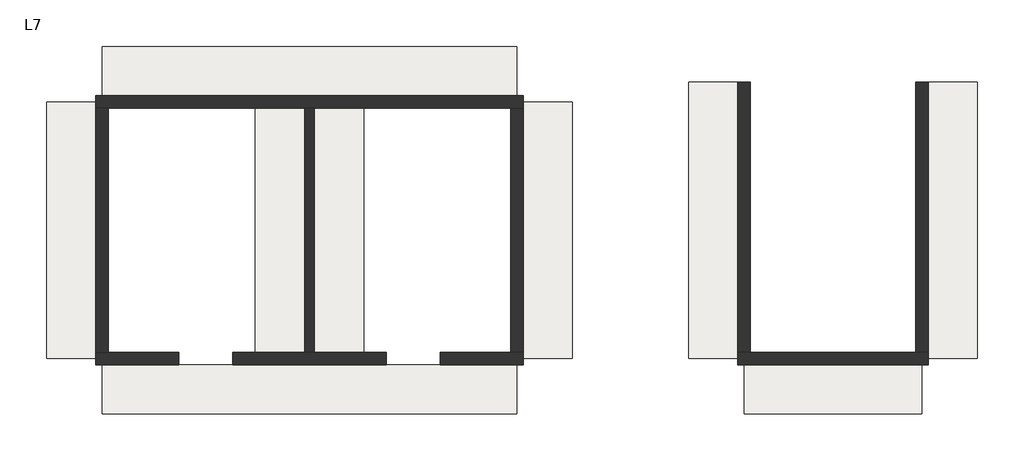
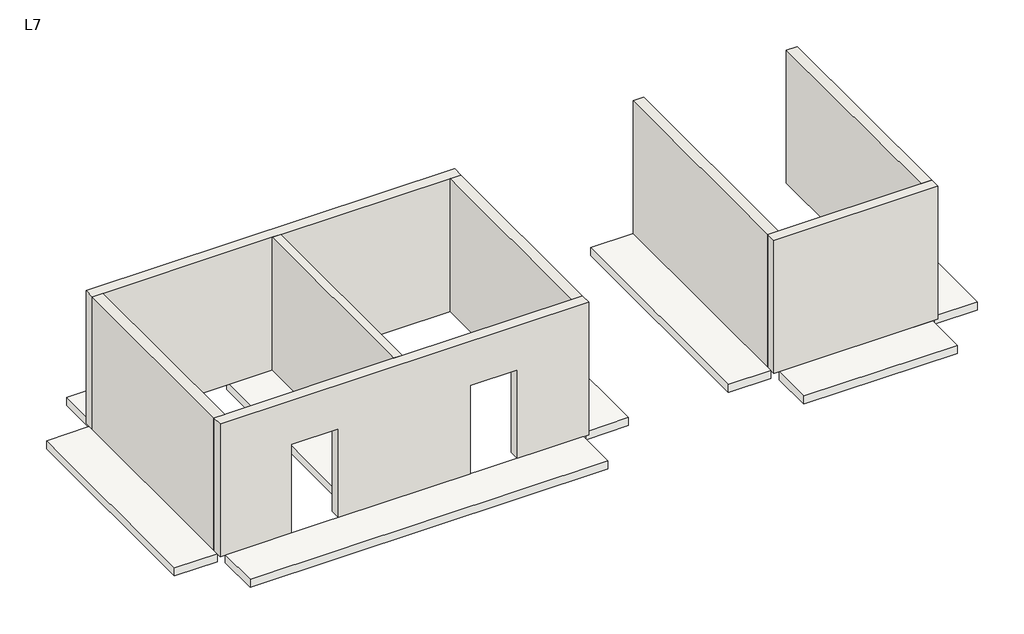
# One storey: 9 slabs, 8 walls.
"""IFC4 building model written with IfcOpenShell, lengths in millimetres."""

from ifc_helpers import new_model, si_unit, frame, origin, place, context, project, spatial, polyline, outline, extrude, faceted_brep, element, save

model = new_model("IFC4")

# Units and contexts
model_context = context("Model", 3, world=origin())
ifc_project = project(units=[si_unit("LENGTHUNIT", "METRE", prefix="MILLI")], contexts=[model_context])

# Site, building, storey
site = spatial("IfcSite", under=ifc_project)
building = spatial("IfcBuilding", under=site)
storey = spatial("IfcBuildingStorey", under=building, Name="L7", Elevation=21000.0)

# Slabs
placement = place(None, origin())
element("IfcSlab", 1, ObjectType="BS-Sàn 200", at=placement, inside=storey, context=model_context, shape_type="SweptSolid", body=[
    extrude(outline(polyline([(0.0, 6325.0), (8400.0, 6325.0), (8400.0, 5325.0), (0.0, 5325.0), (0.0, 6325.0)])), frame((0.0, 0.0, 20800.0), z_axis=(0.0, 0.0, 1.0), x_axis=(1.0, 0.0, 0.0)), (0.0, 0.0, 1.0), 200.0),
])
element("IfcSlab", 2, ObjectType="BS-Sàn 200", at=placement, inside=storey, context=model_context, shape_type="SweptSolid", body=[
    extrude(outline(polyline([(16725.0, 5600.0), (17725.0, 5600.0), (17725.0, 0.0), (16725.0, 0.0), (16725.0, 5600.0)])), frame((0.0, 0.0, 20800.0), z_axis=(0.0, 0.0, 1.0), x_axis=(1.0, 0.0, 0.0)), (0.0, 0.0, 1.0), 200.0),
])
element("IfcSlab", 3, ObjectType="BS-Sàn 200", at=placement, inside=storey, context=model_context, shape_type="SweptSolid", body=[
    extrude(outline(polyline([(11875.0, 5600.0), (12875.0, 5600.0), (12875.0, 0.0), (11875.0, 0.0), (11875.0, 5600.0)])), frame((0.0, 0.0, 20800.0), z_axis=(0.0, 0.0, 1.0), x_axis=(1.0, 0.0, 0.0)), (0.0, 0.0, 1.0), 200.0),
])
element("IfcSlab", 4, ObjectType="BS-Sàn 200", at=placement, inside=storey, context=model_context, shape_type="SweptSolid", body=[
    extrude(outline(polyline([(4300.0, 5200.0), (5300.0, 5200.0), (5300.0, 0.0), (4300.0, 0.0), (4300.0, 5200.0)])), frame((0.0, 0.0, 20800.0), z_axis=(0.0, 0.0, 1.0), x_axis=(1.0, 0.0, 0.0)), (0.0, 0.0, 1.0), 200.0),
])
element("IfcSlab", 5, ObjectType="BS-Sàn 200", at=placement, inside=storey, context=model_context, shape_type="SweptSolid", body=[
    extrude(outline(polyline([(3100.0, 5200.0), (4100.0, 5200.0), (4100.0, 0.0), (3100.0, 0.0), (3100.0, 5200.0)])), frame((0.0, 0.0, 20800.0), z_axis=(0.0, 0.0, 1.0), x_axis=(1.0, 0.0, 0.0)), (0.0, 0.0, 1.0), 200.0),
])
element("IfcSlab", 6, ObjectType="BS-Sàn 200", at=placement, inside=storey, context=model_context, shape_type="SweptSolid", body=[
    extrude(outline(polyline([(8525.0, 5200.0), (9525.0, 5200.0), (9525.0, 0.0), (8525.0, 0.0), (8525.0, 5200.0)])), frame((0.0, 0.0, 20800.0), z_axis=(0.0, 0.0, 1.0), x_axis=(1.0, 0.0, 0.0)), (0.0, 0.0, 1.0), 200.0),
])
element("IfcSlab", 7, ObjectType="BS-Sàn 200", at=placement, inside=storey, context=model_context, shape_type="SweptSolid", body=[
    extrude(outline(polyline([(-1125.0, 5200.0), (-125.0, 5200.0), (-125.0, 0.0), (-1125.0, 0.0), (-1125.0, 5200.0)])), frame((0.0, 0.0, 20800.0), z_axis=(0.0, 0.0, 1.0), x_axis=(1.0, 0.0, 0.0)), (0.0, 0.0, 1.0), 200.0),
])
element("IfcSlab", 8, ObjectType="BS-Sàn 200", at=placement, inside=storey, context=model_context, shape_type="SweptSolid", body=[
    extrude(outline(polyline([(13000.0, -125.0), (16600.0, -125.0), (16600.0, -1125.0), (13000.0, -1125.0), (13000.0, -125.0)])), frame((0.0, 0.0, 20800.0), z_axis=(0.0, 0.0, 1.0), x_axis=(1.0, 0.0, 0.0)), (0.0, 0.0, 1.0), 200.0),
])
element("IfcSlab", 9, ObjectType="BS-Sàn 200", at=placement, inside=storey, context=model_context, shape_type="SweptSolid", body=[
    extrude(outline(polyline([(0.0, -125.0), (8400.0, -125.0), (8400.0, -1125.0), (0.0, -1125.0), (0.0, -125.0)])), frame((0.0, 0.0, 20800.0), z_axis=(0.0, 0.0, 1.0), x_axis=(1.0, 0.0, 0.0)), (0.0, 0.0, 1.0), 200.0),
])

# Walls
element("IfcWall", 10, ObjectType="BS-Vách 250", at=placement, inside=storey, context=model_context, shape_type="Brep", body=[
    faceted_brep([(-125.0, 5075.0, 21000.0), (125.0, 5075.0, 21000.0), (4100.0, 5075.0, 21000.0), (4300.0, 5075.0, 21000.0), (8275.0, 5075.0, 21000.0), (8525.0, 5075.0, 21000.0), (8525.0, 5075.0, 24300.0), (8275.0, 5075.0, 24300.0), (4300.0, 5075.0, 24300.0), (4100.0, 5075.0, 24300.0), (125.0, 5075.0, 24300.0), (-125.0, 5075.0, 24300.0), (-125.0, 5325.0, 21000.0), (-125.0, 5325.0, 24300.0), (8525.0, 5325.0, 24300.0), (8525.0, 5325.0, 21000.0)], [[[0, 1, 2, 3, 4, 5, 6, 7, 8, 9, 10, 11]], [[12, 13, 14, 15]], [[5, 4, 3, 2, 1, 0, 12, 15]], [[11, 10, 9, 8, 7, 6, 14, 13]], [[6, 5, 15, 14]], [[0, 11, 13, 12]]]),
])
element("IfcWall", 11, ObjectType="BS-Vách 250", at=placement, inside=storey, context=model_context, shape_type="Brep", body=[
    faceted_brep([(8525.0, -125.0, 21000.0), (8525.0, -125.0, 24300.0), (-125.0, -125.0, 24300.0), (-125.0, -125.0, 21000.0), (1550.0, -125.0, 21000.0), (1550.0, -125.0, 23200.0), (2650.0, -125.0, 23200.0), (2650.0, -125.0, 21000.0), (5750.0, -125.0, 21000.0), (5750.0, -125.0, 23200.0), (6850.0, -125.0, 23200.0), (6850.0, -125.0, 21000.0), (8525.0, 125.0, 24300.0), (8525.0, 125.0, 21000.0), (8275.0, 125.0, 21000.0), (6850.0, 125.0, 21000.0), (6850.0, 125.0, 23200.0), (5750.0, 125.0, 23200.0), (5750.0, 125.0, 21000.0), (4300.0, 125.0, 21000.0), (4100.0, 125.0, 21000.0), (2650.0, 125.0, 21000.0), (2650.0, 125.0, 23200.0), (1550.0, 125.0, 23200.0), (1550.0, 125.0, 21000.0), (125.0, 125.0, 21000.0), (-125.0, 125.0, 21000.0), (-125.0, 125.0, 24300.0), (125.0, 125.0, 24300.0), (4100.0, 125.0, 24300.0), (4300.0, 125.0, 24300.0), (8275.0, 125.0, 24300.0)], [[[0, 1, 2, 3, 4, 5, 6, 7, 8, 9, 10, 11]], [[12, 13, 14, 15, 16, 17, 18, 19, 20, 21, 22, 23, 24, 25, 26, 27, 28, 29, 30, 31]], [[7, 21, 20, 19, 18, 8]], [[13, 0, 11, 15, 14]], [[3, 26, 25, 24, 4]], [[2, 1, 12, 31, 30, 29, 28, 27]], [[5, 23, 22, 6]], [[23, 5, 4, 24]], [[6, 22, 21, 7]], [[9, 17, 16, 10]], [[17, 9, 8, 18]], [[10, 16, 15, 11]], [[1, 0, 13, 12]], [[3, 2, 27, 26]]]),
])
element("IfcWall", 12, ObjectType="BS-Vách 250", at=placement, inside=storey, context=model_context, shape_type="SweptSolid", body=[
    extrude(outline(polyline([(125.0, 5075.0), (125.0, 125.0), (-125.0, 125.0), (-125.0, 5075.0), (125.0, 5075.0)])), frame((0.0, 0.0, 21000.0), z_axis=(0.0, 0.0, 1.0), x_axis=(1.0, 0.0, 0.0)), (0.0, 0.0, 1.0), 3300.0),
])
element("IfcWall", 13, ObjectType="BS-Vách 250", at=placement, inside=storey, context=model_context, shape_type="SweptSolid", body=[
    extrude(outline(polyline([(8525.0, 5075.0), (8525.0, 125.0), (8275.0, 125.0), (8275.0, 5075.0), (8525.0, 5075.0)])), frame((0.0, 0.0, 21000.0), z_axis=(0.0, 0.0, 1.0), x_axis=(1.0, 0.0, 0.0)), (0.0, 0.0, 1.0), 3300.0),
])
element("IfcWall", 14, ObjectType="BS-Vách 200", at=placement, inside=storey, context=model_context, shape_type="SweptSolid", body=[
    extrude(outline(polyline([(4300.0, 5075.0), (4300.0, 125.0), (4100.0, 125.0), (4100.0, 5075.0), (4300.0, 5075.0)])), frame((0.0, 0.0, 21000.0), z_axis=(0.0, 0.0, 1.0), x_axis=(1.0, 0.0, 0.0)), (0.0, 0.0, 1.0), 3300.0),
])
element("IfcWall", 15, ObjectType="BS-Vách 250", at=placement, inside=storey, context=model_context, shape_type="Brep", body=[
    faceted_brep([(12875.0, -125.0, 21000.0), (16725.0, -125.0, 21000.0), (16725.0, -125.0, 24300.0), (12875.0, -125.0, 24300.0), (12875.0, 125.0, 21000.0), (12875.0, 125.0, 24300.0), (13125.0, 125.0, 24300.0), (16475.0, 125.0, 24300.0), (16725.0, 125.0, 24300.0), (16725.0, 125.0, 21000.0), (16475.0, 125.0, 21000.0), (13125.0, 125.0, 21000.0)], [[[0, 1, 2, 3]], [[4, 5, 6, 7, 8, 9, 10, 11]], [[1, 0, 4, 11, 10, 9]], [[3, 2, 8, 7, 6, 5]], [[2, 1, 9, 8]], [[0, 3, 5, 4]]]),
])
element("IfcWall", 16, ObjectType="BS-Vách 250", at=placement, inside=storey, context=model_context, shape_type="SweptSolid", body=[
    extrude(outline(polyline([(13125.0, 5600.0), (13125.0, 125.0), (12875.0, 125.0), (12875.0, 5600.0), (13125.0, 5600.0)])), frame((0.0, 0.0, 21000.0), z_axis=(0.0, 0.0, 1.0), x_axis=(1.0, 0.0, 0.0)), (0.0, 0.0, 1.0), 3300.0),
])
element("IfcWall", 17, ObjectType="BS-Vách 250", at=placement, inside=storey, context=model_context, shape_type="SweptSolid", body=[
    extrude(outline(polyline([(16725.0, 5600.0), (16725.0, 125.0), (16475.0, 125.0), (16475.0, 5600.0), (16725.0, 5600.0)])), frame((0.0, 0.0, 21000.0), z_axis=(0.0, 0.0, 1.0), x_axis=(1.0, 0.0, 0.0)), (0.0, 0.0, 1.0), 3300.0),
])

save(model, "model.ifc")
